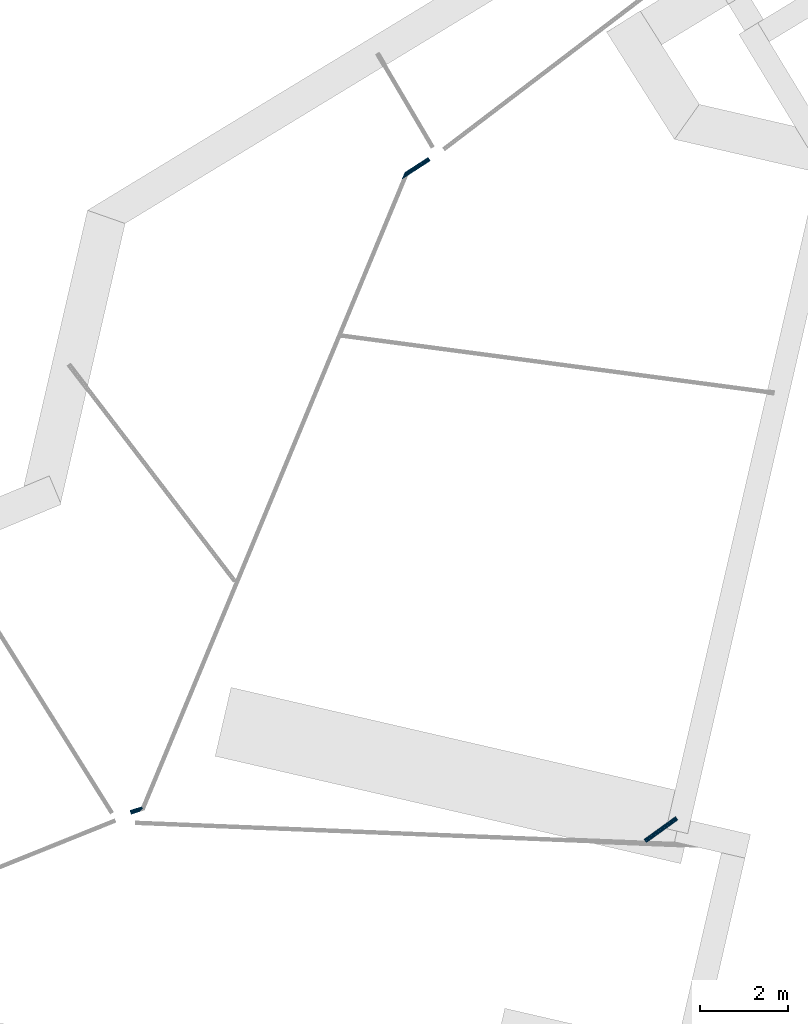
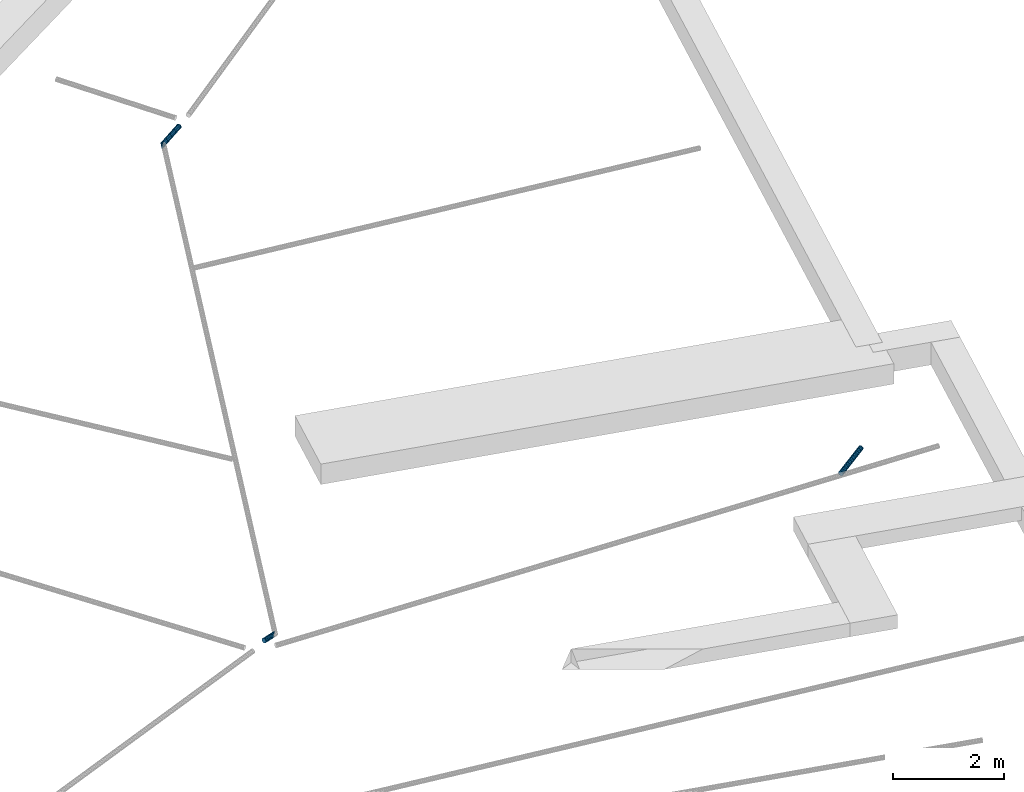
# One storey, part 3 of 6: 3 walls.
"""IFC2X3 building model written with IfcOpenShell, lengths in metres."""

from ifc_helpers import new_model, entity, si_unit, converted_unit, derived_unit, money_unit, direction, frame, origin_with_axes, place, context, subcontext, project, spatial, faceted_brep, material, type_object, element, save


model = new_model("IFC2X3")

# Units and contexts
model_context = context("Model", 3, precision=1e-05, world=origin_with_axes(), true_north=direction((0.0, 1.0)))
body_context = subcontext(model_context, "Body", "Model", "MODEL_VIEW")
ifc_project = project(units=[si_unit("LENGTHUNIT", "METRE"), si_unit("AREAUNIT", "SQUARE_METRE"), si_unit("VOLUMEUNIT", "CUBIC_METRE"), converted_unit("PLANEANGLEUNIT", "DEGREE", entity("IfcPlaneAngleMeasure", 0.0174532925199), si_unit("PLANEANGLEUNIT", "RADIAN"), dimensions=[0, 0, 0, 0, 0, 0, 0]), si_unit("SOLIDANGLEUNIT", "STERADIAN"), money_unit("EUR"), converted_unit("TIMEUNIT", "Year", entity("IfcTimeMeasure", 31556926.0), si_unit("TIMEUNIT", "SECOND"), dimensions=[0, 0, 1, 0, 0, 0, 0]), si_unit("MASSUNIT", "GRAM", prefix="KILO"), si_unit("THERMODYNAMICTEMPERATUREUNIT", "DEGREE_CELSIUS"), si_unit("LUMINOUSINTENSITYUNIT", "LUMEN"), si_unit("ENERGYUNIT", "JOULE", prefix="MEGA"), derived_unit("THERMALCONDUCTANCEUNIT", [(si_unit("POWERUNIT", "WATT"), 1), (si_unit("LENGTHUNIT", "METRE"), -1), (si_unit("THERMODYNAMICTEMPERATUREUNIT", "KELVIN"), -1)]), derived_unit("SPECIFICHEATCAPACITYUNIT", [(si_unit("ENERGYUNIT", "JOULE"), 1), (si_unit("MASSUNIT", "GRAM", prefix="KILO"), -1), (si_unit("THERMODYNAMICTEMPERATUREUNIT", "KELVIN"), -1)]), derived_unit("MASSDENSITYUNIT", [(si_unit("MASSUNIT", "GRAM", prefix="KILO"), 1), (si_unit("VOLUMEUNIT", "CUBIC_METRE"), -1)])], contexts=[model_context])

# Site, building, storey
site_placement = place(None, origin_with_axes())
site = spatial("IfcSite", under=ifc_project, at=site_placement, Name="Site", CompositionType="ELEMENT")
building_placement = place(site_placement, origin_with_axes())
building = spatial("IfcBuilding", under=site, at=building_placement, Name="Bâtiment", CompositionType="ELEMENT")
storey_placement = place(building_placement, frame((0.0, 0.0, -5.7), z_axis=(0.0, 0.0, 1.0), x_axis=(1.0, 0.0, 0.0)))
storey = spatial("IfcBuildingStorey", under=building, at=storey_placement, Name="-2. Etage", CompositionType="ELEMENT", Elevation=-5.7)

# Walls
ifc_material = material(Name="Plastique - PVC")
wall_type = type_object("IfcWallType", Name="Tuyau PVC 100 100 x 100", PredefinedType="ELEMENTEDWALL")
wall_1_placement = place(storey_placement, frame((-4.89908556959, 19.4176609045, 0.0), z_axis=(0.0, 0.0, 1.0), x_axis=(-0.839460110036, -0.543421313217, 0.0)))
element("IfcWall", 1, at=wall_1_placement, inside=storey, type_object=wall_type, material=ifc_material, Name="M_Ext-014", ObjectType="ELEMENTEDWALL", context=body_context, shape_type="Brep", body=[
    faceted_brep([(0.0, -0.0191341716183, 0.0461939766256), (0.62426428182, -0.0191341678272, 0.0461939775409), (0.618316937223, 0.0, 0.05), (0.0, 0.0, 0.05), (0.0, -0.0353553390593, 0.0353553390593), (0.62930618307, -0.0353553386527, 0.0353553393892), (0.679876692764, 0.0191341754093, 0.0461939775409), (0.0, 0.0191341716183, 0.0461939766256), (0.0, -0.0461939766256, -0.0191341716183), (0.0, -0.05, 0.0), (0.0, -0.0461939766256, 0.0191341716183), (0.0, 0.0353553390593, 0.0353553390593), (0.0, 0.0461939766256, 0.0191341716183), (0.0, 0.05, 0.0), (0.0, 0.0461939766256, -0.0191341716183), (0.0, 0.0353553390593, -0.0353553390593), (0.0, 0.0191341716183, -0.0461939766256), (0.0, 0.0, -0.05), (0.0, -0.0191341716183, -0.0461939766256), (0.0, -0.0353553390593, -0.0353553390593), (0.632675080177, -0.0461939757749, 0.0191341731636), (0.732064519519, 0.035355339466, 0.0353553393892), (0.632675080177, -0.0461939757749, -0.0191341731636), (0.633858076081, -0.05, 0.0), (0.766935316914, 0.0461939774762, 0.0191341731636), (0.779180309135, 0.05, 0.0), (0.766935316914, 0.0461939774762, -0.0191341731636), (0.732064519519, 0.035355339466, -0.0353553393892), (0.679876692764, 0.0191341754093, -0.0461939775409), (0.618316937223, 0.0, -0.05), (0.62426428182, -0.0191341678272, -0.0461939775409), (0.62930618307, -0.0353553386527, -0.0353553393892)], [[[0, 1, 2, 3]], [[4, 5, 1, 0]], [[1, 6, 2]], [[3, 2, 6, 7]], [[8, 9, 10, 4, 0, 3, 7, 11, 12, 13, 14, 15, 16, 17, 18, 19]], [[10, 20, 5, 4]], [[6, 1, 5, 21]], [[7, 6, 21, 11]], [[8, 22, 23, 9]], [[9, 23, 20, 10]], [[11, 21, 24, 12]], [[12, 24, 25, 13]], [[13, 25, 26, 14]], [[14, 26, 27, 15]], [[15, 27, 28, 16]], [[16, 28, 29, 17]], [[17, 29, 30, 18]], [[18, 30, 31, 19]], [[19, 31, 22, 8]], [[21, 5, 20, 24]], [[25, 23, 22, 26]], [[24, 20, 23, 25]], [[26, 22, 31, 27]], [[27, 31, 30, 28]], [[28, 30, 29]]]),
])
wall_2_placement = place(storey_placement, frame((-11.3880616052, 4.70468375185, 0.0), z_axis=(0.0, 0.0, 1.0), x_axis=(-0.953129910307, -0.302561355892, 0.0)))
element("IfcWall", 2, at=wall_2_placement, inside=storey, type_object=wall_type, material=ifc_material, Name="M_Ext-016", ObjectType="ELEMENTEDWALL", context=body_context, shape_type="Brep", body=[
    faceted_brep([(0.299681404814, 0.0191341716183, 0.0461939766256), (0.041185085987, 0.0191341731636, 0.0461939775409), (0.0, 0.0, 0.05), (0.299681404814, 0.0, 0.05), (0.299681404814, 0.0353553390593, 0.0353553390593), (0.0761001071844, 0.0353553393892, 0.0353553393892), (0.00888954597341, -0.0191341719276, 0.0461939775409), (0.299681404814, -0.0191341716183, 0.0461939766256), (0.299681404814, -0.0353553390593, 0.0353553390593), (0.299681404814, -0.0461939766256, 0.0191341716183), (0.299681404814, -0.05, 0.0), (0.299681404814, -0.0461939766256, -0.0191341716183), (0.299681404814, -0.0353553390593, -0.0353553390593), (0.299681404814, -0.0191341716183, -0.0461939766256), (0.299681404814, 0.0, -0.05), (0.299681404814, 0.0191341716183, -0.0461939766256), (0.299681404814, 0.0353553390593, -0.0353553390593), (0.299681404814, 0.0461939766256, -0.0191341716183), (0.299681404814, 0.05, 0.0), (0.299681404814, 0.0461939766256, 0.0191341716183), (0.099429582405, 0.0461939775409, 0.0191341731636), (0.0164257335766, -0.035355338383, 0.0353553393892), (0.0214612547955, -0.0461939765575, 0.0191341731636), (0.023229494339, -0.0499999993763, 0.0), (0.0214612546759, -0.0461939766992, -0.0191341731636), (0.016425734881, -0.0353553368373, -0.0353553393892), (0.00888954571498, -0.0191341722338, -0.0461939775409), (0.0, 0.0, -0.05), (0.041185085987, 0.0191341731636, -0.0461939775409), (0.0761001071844, 0.0353553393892, -0.0353553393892), (0.099429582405, 0.0461939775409, -0.0191341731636), (0.107621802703, 0.05, 0.0)], [[[0, 1, 2, 3]], [[4, 5, 1, 0]], [[1, 6, 2]], [[3, 2, 6, 7]], [[3, 7, 8, 9, 10, 11, 12, 13, 14, 15, 16, 17, 18, 19, 4, 0]], [[19, 20, 5, 4]], [[5, 21, 6, 1]], [[7, 6, 21, 8]], [[8, 21, 22, 9]], [[9, 22, 23, 10]], [[10, 23, 24, 11]], [[11, 24, 25, 12]], [[12, 25, 26, 13]], [[13, 26, 27, 14]], [[14, 27, 28, 15]], [[15, 28, 29, 16]], [[16, 29, 30, 17]], [[17, 30, 31, 18]], [[18, 31, 20, 19]], [[20, 22, 21, 5]], [[31, 23, 22, 20]], [[30, 24, 23, 31]], [[29, 25, 24, 30]], [[28, 26, 25, 29]], [[26, 28, 27]]]),
])
wall_3_placement = place(storey_placement, frame((0.706314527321, 4.48329892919, 0.0), z_axis=(0.0, 0.0, 1.0), x_axis=(-0.810842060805, -0.585265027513, 0.0)))
element("IfcWall", 3, at=wall_3_placement, inside=storey, type_object=wall_type, material=ifc_material, Name="M_Ext-021", ObjectType="ELEMENTEDWALL", context=body_context, shape_type="Brep", body=[
    faceted_brep([(0.0, -0.0461939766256, 0.0191341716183), (0.885619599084, -0.0461939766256, 0.0191341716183), (0.885619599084, -0.0353553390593, 0.0353553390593), (0.0, -0.0353553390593, 0.0353553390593), (0.0, -0.05, 0.0), (0.885619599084, -0.05, 0.0), (0.885619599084, -0.0461939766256, -0.0191341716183), (0.885619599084, -0.0353553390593, -0.0353553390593), (0.885619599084, -0.0191341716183, -0.0461939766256), (0.885619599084, 0.0, -0.05), (0.885619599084, 0.0191341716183, -0.0461939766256), (0.885619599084, 0.0353553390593, -0.0353553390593), (0.885619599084, 0.0461939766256, -0.0191341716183), (0.885619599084, 0.05, 0.0), (0.885619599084, 0.0461939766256, 0.0191341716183), (0.885619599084, 0.0353553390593, 0.0353553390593), (0.885619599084, 0.0191341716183, 0.0461939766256), (0.885619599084, 0.0, 0.05), (0.885619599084, -0.0191341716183, 0.0461939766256), (0.0, -0.0191341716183, 0.0461939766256), (0.0, 0.0, 0.05), (0.0, 0.0191341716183, 0.0461939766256), (0.0, 0.0353553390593, 0.0353553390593), (0.0, 0.0461939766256, 0.0191341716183), (0.0, 0.05, 0.0), (0.0, 0.0461939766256, -0.0191341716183), (0.0, 0.0353553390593, -0.0353553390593), (0.0, 0.0191341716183, -0.0461939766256), (0.0, 0.0, -0.05), (0.0, -0.0191341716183, -0.0461939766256), (0.0, -0.0353553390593, -0.0353553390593), (0.0, -0.0461939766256, -0.0191341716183)], [[[0, 1, 2, 3]], [[4, 5, 1, 0]], [[2, 1, 5, 6, 7, 8, 9, 10, 11, 12, 13, 14, 15, 16, 17, 18]], [[3, 2, 18, 19]], [[4, 0, 3, 19, 20, 21, 22, 23, 24, 25, 26, 27, 28, 29, 30, 31]], [[31, 6, 5, 4]], [[30, 7, 6, 31]], [[29, 8, 7, 30]], [[28, 9, 8, 29]], [[27, 10, 9, 28]], [[26, 11, 10, 27]], [[25, 12, 11, 26]], [[24, 13, 12, 25]], [[23, 14, 13, 24]], [[22, 15, 14, 23]], [[21, 16, 15, 22]], [[20, 17, 16, 21]], [[19, 18, 17, 20]]]),
])

save(model, "model.ifc")
